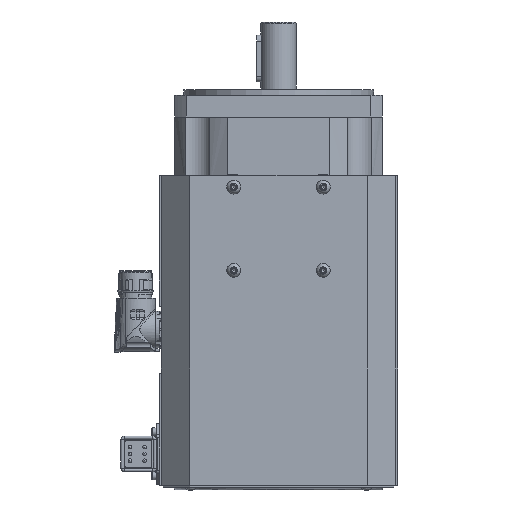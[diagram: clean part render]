
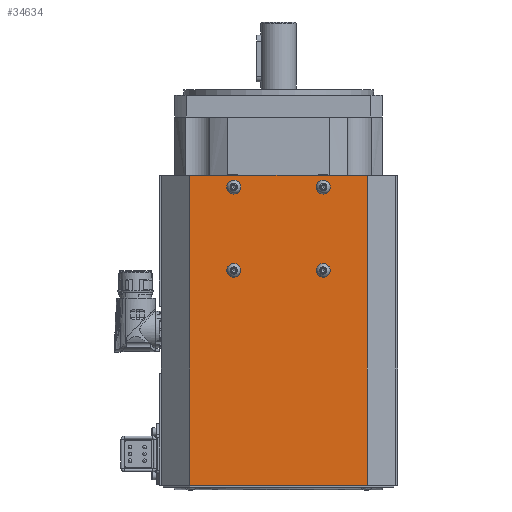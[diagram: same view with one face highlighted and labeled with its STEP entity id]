
A CAD part, left-side view. The second image highlights one B-rep face of the part: STEP entity #34634.
In plain terms, the highlighted planar face has unit normal (-1, 0, 0).
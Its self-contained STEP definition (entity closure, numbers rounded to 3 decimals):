
#3528=LINE('',#66494,#5263);
#3529=LINE('',#66496,#5264);
#3530=LINE('',#66498,#5265);
#3531=LINE('',#66499,#5266);
#5263=VECTOR('',#45799,121.594);
#5264=VECTOR('',#45800,212.);
#5265=VECTOR('',#45801,121.594);
#5266=VECTOR('',#45802,212.);
#8357=FACE_BOUND('',#12725,.T.);
#8358=FACE_BOUND('',#12726,.T.);
#8359=FACE_BOUND('',#12727,.T.);
#8360=FACE_BOUND('',#12728,.T.);
#8361=FACE_BOUND('',#12729,.T.);
#12725=EDGE_LOOP('',(#30103));
#12726=EDGE_LOOP('',(#30104));
#12727=EDGE_LOOP('',(#30105));
#12728=EDGE_LOOP('',(#30106));
#12729=EDGE_LOOP('',(#30107,#30108,#30109,#30110));
#14669=CIRCLE('',#38032,4.75);
#14670=CIRCLE('',#38033,4.75);
#14671=CIRCLE('',#38034,4.75);
#14672=CIRCLE('',#38035,4.75);
#17662=VERTEX_POINT('',#66484);
#17663=VERTEX_POINT('',#66486);
#17664=VERTEX_POINT('',#66488);
#17665=VERTEX_POINT('',#66490);
#17666=VERTEX_POINT('',#66492);
#17667=VERTEX_POINT('',#66493);
#17668=VERTEX_POINT('',#66495);
#17669=VERTEX_POINT('',#66497);
#21920=EDGE_CURVE('',#17662,#17662,#14669,.T.);
#21921=EDGE_CURVE('',#17663,#17663,#14670,.T.);
#21922=EDGE_CURVE('',#17664,#17664,#14671,.T.);
#21923=EDGE_CURVE('',#17665,#17665,#14672,.T.);
#21924=EDGE_CURVE('',#17666,#17667,#3528,.T.);
#21925=EDGE_CURVE('',#17666,#17668,#3529,.T.);
#21926=EDGE_CURVE('',#17668,#17669,#3530,.T.);
#21927=EDGE_CURVE('',#17667,#17669,#3531,.T.);
#30103=ORIENTED_EDGE('',*,*,#21920,.T.);
#30104=ORIENTED_EDGE('',*,*,#21921,.T.);
#30105=ORIENTED_EDGE('',*,*,#21922,.T.);
#30106=ORIENTED_EDGE('',*,*,#21923,.T.);
#30107=ORIENTED_EDGE('',*,*,#21924,.F.);
#30108=ORIENTED_EDGE('',*,*,#21925,.T.);
#30109=ORIENTED_EDGE('',*,*,#21926,.T.);
#30110=ORIENTED_EDGE('',*,*,#21927,.F.);
#32803=PLANE('',#38031);
#34634=ADVANCED_FACE('',(#8357,#8358,#8359,#8360,#8361),#32803,.T.);
#38031=AXIS2_PLACEMENT_3D('',#66483,#45789,#45790);
#38032=AXIS2_PLACEMENT_3D('',#66485,#45791,#45792);
#38033=AXIS2_PLACEMENT_3D('',#66487,#45793,#45794);
#38034=AXIS2_PLACEMENT_3D('',#66489,#45795,#45796);
#38035=AXIS2_PLACEMENT_3D('',#66491,#45797,#45798);
#45789=DIRECTION('center_axis',(-1.,0.,0.));
#45790=DIRECTION('ref_axis',(0.,1.,0.));
#45791=DIRECTION('center_axis',(1.,0.,0.));
#45792=DIRECTION('ref_axis',(0.,0.,1.));
#45793=DIRECTION('center_axis',(1.,0.,0.));
#45794=DIRECTION('ref_axis',(0.,0.,1.));
#45795=DIRECTION('center_axis',(1.,0.,0.));
#45796=DIRECTION('ref_axis',(0.,0.,1.));
#45797=DIRECTION('center_axis',(1.,0.,0.));
#45798=DIRECTION('ref_axis',(0.,0.,1.));
#45799=DIRECTION('',(0.,-1.,0.));
#45800=DIRECTION('',(0.,0.,-1.));
#45801=DIRECTION('',(0.,-1.,0.));
#45802=DIRECTION('',(0.,0.,-1.));
#66483=CARTESIAN_POINT('Origin',(-80.2,0.,-40.));
#66484=CARTESIAN_POINT('',(-80.2,-30.65,-100.25));
#66485=CARTESIAN_POINT('Origin',(-80.2,-30.65,-105.));
#66486=CARTESIAN_POINT('',(-80.2,-30.65,-43.25));
#66487=CARTESIAN_POINT('Origin',(-80.2,-30.65,-48.));
#66488=CARTESIAN_POINT('',(-80.2,30.65,-100.25));
#66489=CARTESIAN_POINT('Origin',(-80.2,30.65,-105.));
#66490=CARTESIAN_POINT('',(-80.2,30.65,-43.25));
#66491=CARTESIAN_POINT('Origin',(-80.2,30.65,-48.));
#66492=CARTESIAN_POINT('',(-80.2,60.797,-40.));
#66493=CARTESIAN_POINT('',(-80.2,-60.797,-40.));
#66494=CARTESIAN_POINT('',(-80.2,60.797,-40.));
#66495=CARTESIAN_POINT('',(-80.2,60.797,-252.));
#66496=CARTESIAN_POINT('',(-80.2,60.797,-40.));
#66497=CARTESIAN_POINT('',(-80.2,-60.797,-252.));
#66498=CARTESIAN_POINT('',(-80.2,-60.797,-252.));
#66499=CARTESIAN_POINT('',(-80.2,-60.797,-40.));
